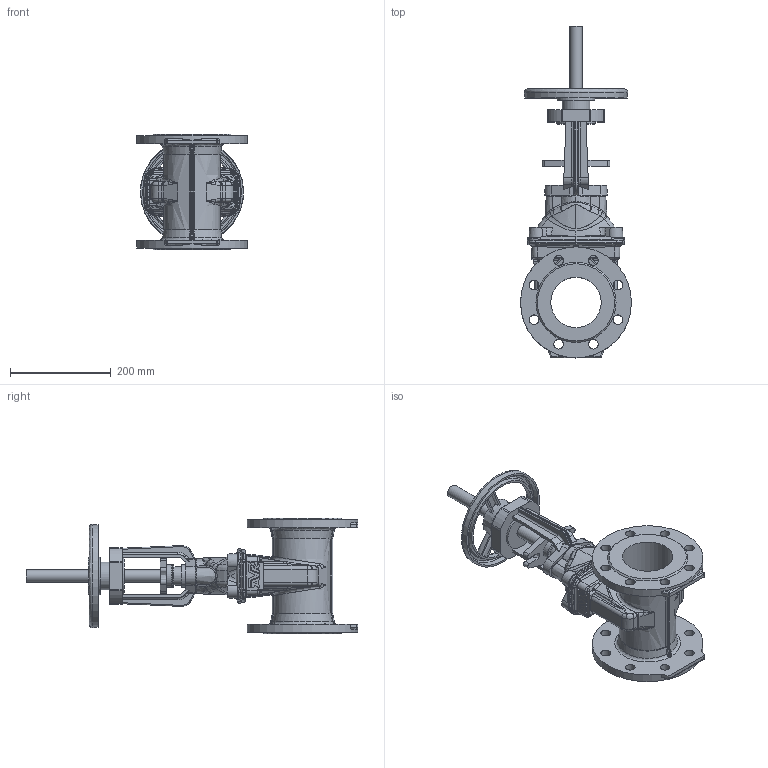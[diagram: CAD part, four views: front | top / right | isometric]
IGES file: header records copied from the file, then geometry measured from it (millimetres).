
Start section: SolidWorks IGES file using analytic representation for surfaces
Global section: file name: \\avksan2\techshare\PBM outline export from Enovia\O_21_34_DN100_41XXXXX open_AA0.igs; native system: SolidWorks 2012; preprocessor: SolidWorks 2012; author: pbm; date: 200212.100622; units: millimetre
Bounding box: 220 x 658.37 x 229 mm (x, y, z)
Surface area: 563883 mm2 (no closed solid volume)
Topology: 0 solids, 0 shells, 903 faces, 4744 edges, 4648 vertices
Faces by surface type: bspline 497, revolution 406
